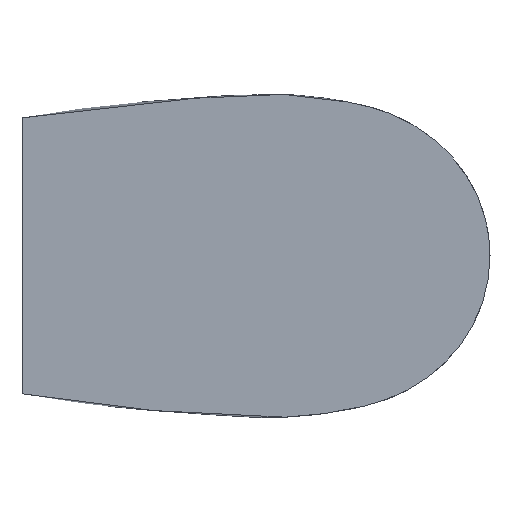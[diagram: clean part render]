
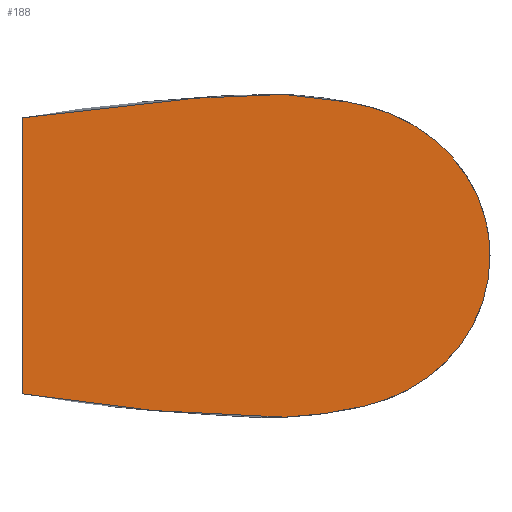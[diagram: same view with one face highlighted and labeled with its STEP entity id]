
A CAD part, left-side view. The second image highlights one B-rep face of the part: STEP entity #188.
In plain terms, the highlighted planar face has unit normal (-1, 0, 0).
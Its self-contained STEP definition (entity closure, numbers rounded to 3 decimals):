
#6=DIRECTION('',(0.,0.,1.));
#7=VECTOR('',#6,2.097);
#8=CARTESIAN_POINT('',(-9.,-0.3,-1.048));
#9=LINE('',#8,#7);
#10=CARTESIAN_POINT('',(-9.,-0.3,1.048));
#11=CARTESIAN_POINT('',(-9.,-0.447,1.075));
#12=CARTESIAN_POINT('',(-9.,-0.666,1.109));
#13=CARTESIAN_POINT('',(-9.,-0.961,1.145));
#14=CARTESIAN_POINT('',(-9.,-1.182,1.167));
#15=CARTESIAN_POINT('',(-9.,-1.405,1.184));
#16=CARTESIAN_POINT('',(-9.,-1.593,1.194));
#17=CARTESIAN_POINT('',(-9.,-1.746,1.207));
#18=CARTESIAN_POINT('',(-9.,-1.902,1.222));
#19=CARTESIAN_POINT('',(-9.,-2.115,1.232));
#20=CARTESIAN_POINT('',(-9.,-2.339,1.226));
#21=CARTESIAN_POINT('',(-9.,-2.531,1.208));
#22=CARTESIAN_POINT('',(-9.,-2.677,1.187));
#23=CARTESIAN_POINT('',(-9.,-2.825,1.159));
#24=CARTESIAN_POINT('',(-9.,-2.972,1.125));
#25=CARTESIAN_POINT('',(-9.,-3.116,1.075));
#26=CARTESIAN_POINT('',(-9.,-3.3,0.986));
#27=CARTESIAN_POINT('',(-9.,-3.509,0.833));
#28=CARTESIAN_POINT('',(-9.,-3.672,0.631));
#29=CARTESIAN_POINT('',(-9.,-3.766,0.448));
#30=CARTESIAN_POINT('',(-9.,-3.817,0.302));
#31=CARTESIAN_POINT('',(-9.,-3.848,0.152));
#32=CARTESIAN_POINT('',(-9.,-3.855,0.051));
#33=CARTESIAN_POINT('',(-9.,-3.855,0.));
#35=CARTESIAN_POINT('',(-9.,-3.855,0.));
#36=CARTESIAN_POINT('',(-9.,-3.855,-0.051));
#37=CARTESIAN_POINT('',(-9.,-3.848,-0.152));
#38=CARTESIAN_POINT('',(-9.,-3.817,-0.302));
#39=CARTESIAN_POINT('',(-9.,-3.766,-0.448));
#40=CARTESIAN_POINT('',(-9.,-3.672,-0.631));
#41=CARTESIAN_POINT('',(-9.,-3.509,-0.833));
#42=CARTESIAN_POINT('',(-9.,-3.3,-0.986));
#43=CARTESIAN_POINT('',(-9.,-3.116,-1.075));
#44=CARTESIAN_POINT('',(-9.,-2.972,-1.125));
#45=CARTESIAN_POINT('',(-9.,-2.825,-1.159));
#46=CARTESIAN_POINT('',(-9.,-2.677,-1.187));
#47=CARTESIAN_POINT('',(-9.,-2.531,-1.208));
#48=CARTESIAN_POINT('',(-9.,-2.339,-1.226));
#49=CARTESIAN_POINT('',(-9.,-2.115,-1.232));
#50=CARTESIAN_POINT('',(-9.,-1.902,-1.222));
#51=CARTESIAN_POINT('',(-9.,-1.746,-1.207));
#52=CARTESIAN_POINT('',(-9.,-1.593,-1.194));
#53=CARTESIAN_POINT('',(-9.,-1.405,-1.184));
#54=CARTESIAN_POINT('',(-9.,-1.182,-1.167));
#55=CARTESIAN_POINT('',(-9.,-0.961,-1.145));
#56=CARTESIAN_POINT('',(-9.,-0.666,-1.109));
#57=CARTESIAN_POINT('',(-9.,-0.447,-1.075));
#58=CARTESIAN_POINT('',(-9.,-0.3,-1.048));
#153=CARTESIAN_POINT('',(-9.,-0.3,-1.048));
#154=CARTESIAN_POINT('',(-9.,-0.3,1.048));
#155=VERTEX_POINT('',#153);
#156=VERTEX_POINT('',#154);
#157=VERTEX_POINT('',#35);
#176=CARTESIAN_POINT('',(-9.,0.,0.));
#177=DIRECTION('',(1.,0.,0.));
#178=DIRECTION('',(0.,0.,-1.));
#179=AXIS2_PLACEMENT_3D('',#176,#177,#178);
#180=PLANE('',#179);
#181=ORIENTED_EDGE('',*,*,#163,.T.);
#183=ORIENTED_EDGE('',*,*,#182,.T.);
#185=ORIENTED_EDGE('',*,*,#184,.T.);
#186=EDGE_LOOP('',(#181,#183,#185));
#187=FACE_OUTER_BOUND('',#186,.F.);
#188=ADVANCED_FACE('',(#187),#180,.F.);
#34=B_SPLINE_CURVE_WITH_KNOTS('',3,(#10,#11,#12,#13,#14,#15,#16,#17,#18,#19,#20,
#21,#22,#23,#24,#25,#26,#27,#28,#29,#30,#31,#32,#33),.UNSPECIFIED.,.F.,.F.,(4,1,
1,1,1,1,1,1,1,1,1,1,1,1,1,1,1,1,1,1,1,4),(0.,0.106,
0.158,0.211,0.263,0.317,
0.345,0.372,0.429,0.496,
0.531,0.566,0.601,0.637,
0.673,0.709,0.782,0.855,
0.891,0.928,0.964,1.),.UNSPECIFIED.);
#59=B_SPLINE_CURVE_WITH_KNOTS('',3,(#35,#36,#37,#38,#39,#40,#41,#42,#43,#44,#45,
#46,#47,#48,#49,#50,#51,#52,#53,#54,#55,#56,#57,#58),.UNSPECIFIED.,.F.,.F.,(4,1,
1,1,1,1,1,1,1,1,1,1,1,1,1,1,1,1,1,1,1,4),(0.,0.036,
0.072,0.109,0.145,0.218,
0.291,0.327,0.363,0.399,
0.434,0.469,0.504,0.571,
0.628,0.655,0.683,0.737,
0.789,0.842,0.894,1.),.UNSPECIFIED.);
#163=EDGE_CURVE('',#155,#156,#9,.T.);
#182=EDGE_CURVE('',#156,#157,#34,.T.);
#184=EDGE_CURVE('',#157,#155,#59,.T.);
